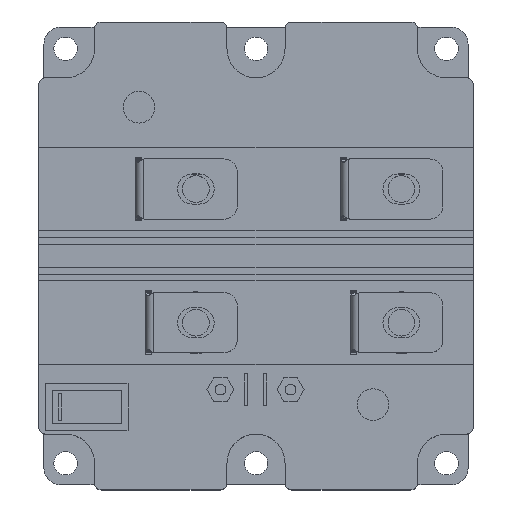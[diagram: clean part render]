
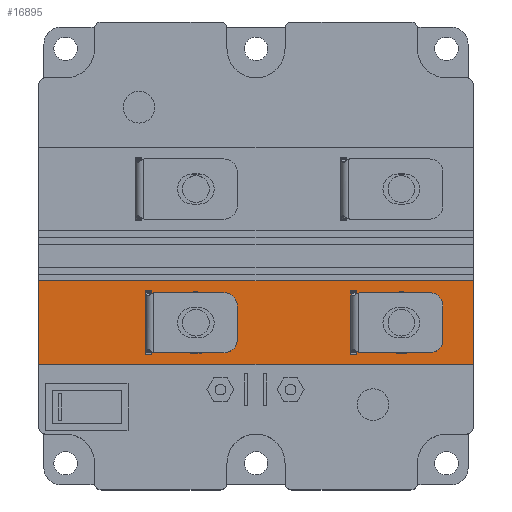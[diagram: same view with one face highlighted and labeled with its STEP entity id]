
A CAD part, top view. The second image highlights one B-rep face of the part: STEP entity #16895.
In plain terms, the highlighted planar face has unit normal (0, 0, 1).
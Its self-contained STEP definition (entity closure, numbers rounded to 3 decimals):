
#7845 = CARTESIAN_POINT ( 'NONE',  ( -186.897, -205.597, -2. ) ) ;
#7869 = CARTESIAN_POINT ( 'NONE',  ( -186.897, -230.597, -2. ) ) ;
#7970 = DIRECTION ( 'NONE',  ( 0., -1., 0. ) ) ;
#7971 = VECTOR ( 'NONE', #7970, 1000. ) ;
#7972 = CARTESIAN_POINT ( 'NONE',  ( -186.897, -144.797, -2. ) ) ;
#7973 = LINE ( 'NONE', #7972, #7971 ) ;
#9488 = DIRECTION ( 'NONE',  ( 0., 1., 0. ) ) ;
#9489 = VECTOR ( 'NONE', #9488, 1000. ) ;
#9490 = CARTESIAN_POINT ( 'NONE',  ( -316.897, -249.397, -2. ) ) ;
#9495 = LINE ( 'NONE', #9490, #9489 ) ;
#9516 = CARTESIAN_POINT ( 'NONE',  ( -316.897, -205.597, -2. ) ) ;
#9657 = CARTESIAN_POINT ( 'NONE',  ( -316.897, -230.597, -2. ) ) ;
#11340 = CIRCLE ( 'NONE', #11520, 9.25 ) ;
#11520 = AXIS2_PLACEMENT_3D ( 'NONE', #11522, #11525, #11524 ) ;
#11522 = CARTESIAN_POINT ( 'NONE',  ( -269.897, -218.097, -2. ) ) ;
#11524 = DIRECTION ( 'NONE',  ( 0., -1., 0. ) ) ;
#11525 = DIRECTION ( 'NONE',  ( 0., 0., -1. ) ) ;
#12431 = DIRECTION ( 'NONE',  ( 0., -1., 0. ) ) ;
#12432 = DIRECTION ( 'NONE',  ( 0., 0., -1. ) ) ;
#12433 = CARTESIAN_POINT ( 'NONE',  ( -208.397, -218.097, -2. ) ) ;
#12434 = AXIS2_PLACEMENT_3D ( 'NONE', #12433, #12432, #12431 ) ;
#12437 = CIRCLE ( 'NONE', #12434, 9.25 ) ;
#12438 = CARTESIAN_POINT ( 'NONE',  ( -223.597, -208.597, -2. ) ) ;
#12456 = CARTESIAN_POINT ( 'NONE',  ( -186.897, -208.597, -2. ) ) ;
#12457 = LINE ( 'NONE', #12456, #12503 ) ;
#12475 = CARTESIAN_POINT ( 'NONE',  ( -221.697, -208.597, -2. ) ) ;
#12502 = DIRECTION ( 'NONE',  ( 1., 0., 0. ) ) ;
#12503 = VECTOR ( 'NONE', #12502, 1000. ) ;
#12512 = DIRECTION ( 'NONE',  ( -1., 0., 0. ) ) ;
#12513 = VECTOR ( 'NONE', #12512, 1000. ) ;
#12514 = CARTESIAN_POINT ( 'NONE',  ( -186.897, -227.597, -2. ) ) ;
#12515 = LINE ( 'NONE', #12514, #12513 ) ;
#12516 = CARTESIAN_POINT ( 'NONE',  ( -283.197, -227.597, -2. ) ) ;
#12525 = CARTESIAN_POINT ( 'NONE',  ( -285.097, -227.597, -2. ) ) ;
#12715 = CARTESIAN_POINT ( 'NONE',  ( -223.597, -227.597, -2. ) ) ;
#12736 = FACE_BOUND ( 'NONE', #16908, .T. ) ;
#12739 = CARTESIAN_POINT ( 'NONE',  ( -221.697, -227.597, -2. ) ) ;
#12746 = LINE ( 'NONE', #12804, #12803 ) ;
#12751 = DIRECTION ( 'NONE',  ( -1., 0., 0. ) ) ;
#12752 = VECTOR ( 'NONE', #12751, 1000. ) ;
#12754 = CARTESIAN_POINT ( 'NONE',  ( -186.897, -227.597, -2. ) ) ;
#12755 = DIRECTION ( 'NONE',  ( 0., -1., 0. ) ) ;
#12756 = DIRECTION ( 'NONE',  ( 0., 0., 1. ) ) ;
#12757 = CARTESIAN_POINT ( 'NONE',  ( -186.897, -205.597, -2. ) ) ;
#12761 = LINE ( 'NONE', #12754, #12752 ) ;
#12764 = DIRECTION ( 'NONE',  ( 0., -1., 0. ) ) ;
#12765 = VECTOR ( 'NONE', #12764, 1000. ) ;
#12766 = FACE_BOUND ( 'NONE', #16943, .T. ) ;
#12767 = PLANE ( 'NONE',  #12770 ) ;
#12768 = FACE_BOUND ( 'NONE', #16888, .T. ) ;
#12769 = FACE_BOUND ( 'NONE', #16949, .T. ) ;
#12770 = AXIS2_PLACEMENT_3D ( 'NONE', #12757, #12756, #12755 ) ;
#12772 = FACE_OUTER_BOUND ( 'NONE', #16945, .T. ) ;
#12773 = CARTESIAN_POINT ( 'NONE',  ( -221.697, -205.597, -2. ) ) ;
#12774 = LINE ( 'NONE', #12773, #12765 ) ;
#12802 = DIRECTION ( 'NONE',  ( -1., 0., 0. ) ) ;
#12803 = VECTOR ( 'NONE', #12802, 1000. ) ;
#12804 = CARTESIAN_POINT ( 'NONE',  ( -186.897, -205.597, -2. ) ) ;
#12805 = VECTOR ( 'NONE', #12868, 1000. ) ;
#12806 = CARTESIAN_POINT ( 'NONE',  ( -186.897, -230.597, -2. ) ) ;
#12807 = LINE ( 'NONE', #12806, #12805 ) ;
#12808 = DIRECTION ( 'NONE',  ( 0., -1., 0. ) ) ;
#12810 = CARTESIAN_POINT ( 'NONE',  ( -283.197, -208.597, -2. ) ) ;
#12815 = VECTOR ( 'NONE', #12808, 1000. ) ;
#12816 = CARTESIAN_POINT ( 'NONE',  ( -283.197, -205.597, -2. ) ) ;
#12817 = LINE ( 'NONE', #12816, #12815 ) ;
#12822 = CARTESIAN_POINT ( 'NONE',  ( -285.097, -208.597, -2. ) ) ;
#12854 = DIRECTION ( 'NONE',  ( 1., 0., 0. ) ) ;
#12855 = VECTOR ( 'NONE', #12854, 1000. ) ;
#12856 = CARTESIAN_POINT ( 'NONE',  ( -186.897, -208.597, -2. ) ) ;
#12857 = LINE ( 'NONE', #12856, #12855 ) ;
#12860 = DIRECTION ( 'NONE',  ( 0., 1., 0. ) ) ;
#12861 = VECTOR ( 'NONE', #12860, 1000. ) ;
#12862 = CARTESIAN_POINT ( 'NONE',  ( -285.097, -205.597, -2. ) ) ;
#12863 = LINE ( 'NONE', #12862, #12861 ) ;
#12864 = DIRECTION ( 'NONE',  ( 0., 1., 0. ) ) ;
#12865 = VECTOR ( 'NONE', #12864, 1000. ) ;
#12866 = CARTESIAN_POINT ( 'NONE',  ( -223.597, -205.597, -2. ) ) ;
#12867 = LINE ( 'NONE', #12866, #12865 ) ;
#12868 = DIRECTION ( 'NONE',  ( 1., 0., 0. ) ) ;
#13852 = CARTESIAN_POINT ( 'NONE',  ( -208.397, -227.347, -2. ) ) ;
#13853 = VERTEX_POINT ( 'NONE', #13852 ) ;
#13857 = CARTESIAN_POINT ( 'NONE',  ( -269.897, -227.347, -2. ) ) ;
#13869 = VERTEX_POINT ( 'NONE', #13857 ) ;
#14242 = VERTEX_POINT ( 'NONE', #7845 ) ;
#14274 = VERTEX_POINT ( 'NONE', #7869 ) ;
#14301 = EDGE_CURVE ( 'NONE', #14242, #14274, #7973, .T. ) ;
#15101 = EDGE_CURVE ( 'NONE', #15189, #15105, #9495, .T. ) ;
#15105 = VERTEX_POINT ( 'NONE', #9516 ) ;
#15189 = VERTEX_POINT ( 'NONE', #9657 ) ;
#16688 = VERTEX_POINT ( 'NONE', #12438 ) ;
#16690 = EDGE_CURVE ( 'NONE', #13853, #13853, #12437, .T. ) ;
#16706 = EDGE_CURVE ( 'NONE', #13869, #13869, #11340, .T. ) ;
#16731 = EDGE_CURVE ( 'NONE', #16688, #16753, #12457, .T. ) ;
#16753 = VERTEX_POINT ( 'NONE', #12475 ) ;
#16758 = VERTEX_POINT ( 'NONE', #12525 ) ;
#16759 = EDGE_CURVE ( 'NONE', #16760, #16758, #12515, .T. ) ;
#16760 = VERTEX_POINT ( 'NONE', #12516 ) ;
#16888 = EDGE_LOOP ( 'NONE', ( #16967, #16956, #16896, #16955 ) ) ;
#16890 = VERTEX_POINT ( 'NONE', #12739 ) ;
#16893 = EDGE_CURVE ( 'NONE', #16753, #16890, #12774, .T. ) ;
#16894 = VERTEX_POINT ( 'NONE', #12715 ) ;
#16895 = ADVANCED_FACE ( 'NONE', ( #12768, #12736, #12766, #12769, #12772 ), #12767, .T. ) ;
#16896 = ORIENTED_EDGE ( 'NONE', *, *, #16957, .T. ) ;
#16898 = EDGE_CURVE ( 'NONE', #16890, #16894, #12761, .T. ) ;
#16903 = EDGE_CURVE ( 'NONE', #14242, #15105, #12746, .T. ) ;
#16908 = EDGE_LOOP ( 'NONE', ( #16961, #16958, #16960, #16946 ) ) ;
#16931 = ORIENTED_EDGE ( 'NONE', *, *, #15101, .F. ) ;
#16943 = EDGE_LOOP ( 'NONE', ( #16948 ) ) ;
#16944 = EDGE_CURVE ( 'NONE', #16964, #16760, #12817, .T. ) ;
#16945 = EDGE_LOOP ( 'NONE', ( #16952, #16931, #16950, #16947 ) ) ;
#16946 = ORIENTED_EDGE ( 'NONE', *, *, #16944, .T. ) ;
#16947 = ORIENTED_EDGE ( 'NONE', *, *, #14301, .F. ) ;
#16948 = ORIENTED_EDGE ( 'NONE', *, *, #16706, .T. ) ;
#16949 = EDGE_LOOP ( 'NONE', ( #16951 ) ) ;
#16950 = ORIENTED_EDGE ( 'NONE', *, *, #16953, .T. ) ;
#16951 = ORIENTED_EDGE ( 'NONE', *, *, #16690, .T. ) ;
#16952 = ORIENTED_EDGE ( 'NONE', *, *, #16903, .T. ) ;
#16953 = EDGE_CURVE ( 'NONE', #15189, #14274, #12807, .T. ) ;
#16955 = ORIENTED_EDGE ( 'NONE', *, *, #16731, .T. ) ;
#16956 = ORIENTED_EDGE ( 'NONE', *, *, #16898, .T. ) ;
#16957 = EDGE_CURVE ( 'NONE', #16894, #16688, #12867, .T. ) ;
#16958 = ORIENTED_EDGE ( 'NONE', *, *, #16959, .T. ) ;
#16959 = EDGE_CURVE ( 'NONE', #16758, #16962, #12863, .T. ) ;
#16960 = ORIENTED_EDGE ( 'NONE', *, *, #16963, .T. ) ;
#16961 = ORIENTED_EDGE ( 'NONE', *, *, #16759, .T. ) ;
#16962 = VERTEX_POINT ( 'NONE', #12822 ) ;
#16963 = EDGE_CURVE ( 'NONE', #16962, #16964, #12857, .T. ) ;
#16964 = VERTEX_POINT ( 'NONE', #12810 ) ;
#16967 = ORIENTED_EDGE ( 'NONE', *, *, #16893, .T. ) ;
